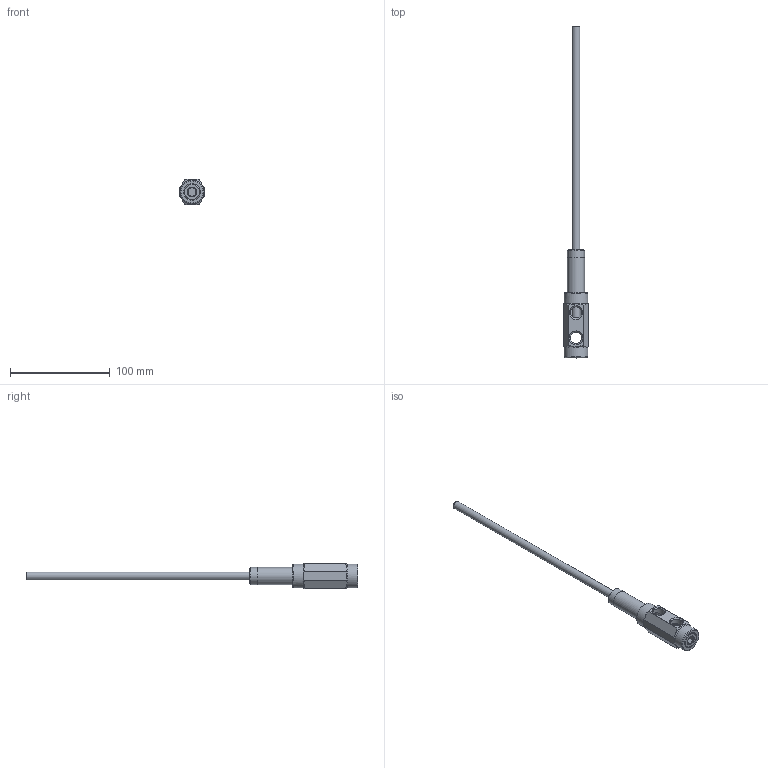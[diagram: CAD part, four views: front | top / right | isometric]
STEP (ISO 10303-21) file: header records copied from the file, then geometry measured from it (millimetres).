
FILE_DESCRIPTION(/* description */ (''),/* implementation_level */ '2;1');
FILE_NAME(/* name */ 'C:/Users/drich/Desktop/381N-RL v1.step',/* time_stamp */ '2020-01-15T19:43:37-06:00',/* author */ (''),/* organization */ (''),/* preprocessor_version */ 'ST-DEVELOPER v18',/* originating_system */ 'Autodesk Translation Framework v8.12.0.6',/* authorisation */ '');
FILE_SCHEMA (('AUTOMOTIVE_DESIGN { 1 0 10303 214 3 1 1 }'));
Length unit declared in the file: inch
Products named in the file (5): 381N-RL; 381H-RL; SSPN38-2; PT14-312-12; BF-38
Assembly tree (4 placements, depth 2):
  381N-RL
    381H-RL
    SSPN38-2
    PT14-312-12
    BF-38
Bounding box: 24.64 x 331.99 x 25.4 mm (x, y, z)
Volume: 30324.3 mm3; surface area: 29804.5 mm2
Topology: 4 solids, 4 shells, 94 faces, 243 edges, 163 vertices
Faces by surface type: plane 35, cylinder 21, cone 18, bspline 12, torus 8
Full cylindrical faces by diameter (mm): 7.315 x1, 7.925 x1, 9.906 x1, 11.668 x4, 12.522 x1, 13.032 x1, 15.173 x2, 16.537 x1, 17.094 x2, 17.145 x1, 23.8 x2
Entity records: 3414 total; most frequent: CARTESIAN_POINT 983, DIRECTION 490, ORIENTED_EDGE 486, EDGE_CURVE 243, AXIS2_PLACEMENT_3D 206, VERTEX_POINT 163, CIRCLE 115, EDGE_LOOP 112
